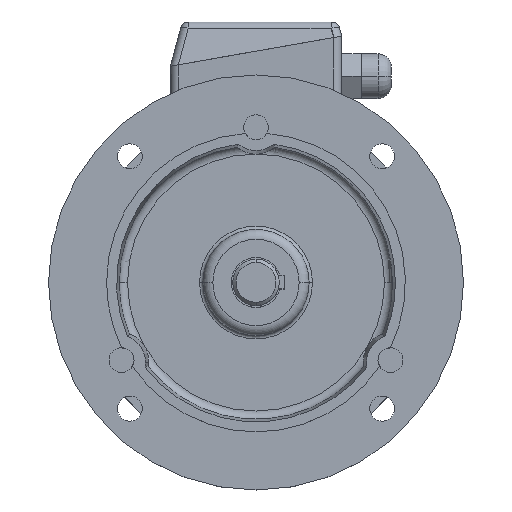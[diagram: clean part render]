
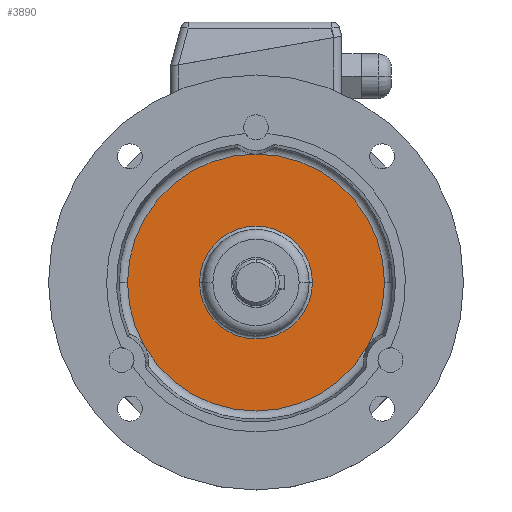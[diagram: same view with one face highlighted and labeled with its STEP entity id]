
A CAD part, top view. The second image highlights one B-rep face of the part: STEP entity #3890.
In plain terms, the highlighted planar face has unit normal (0, 0, 1).
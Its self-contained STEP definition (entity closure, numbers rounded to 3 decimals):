
#416 = ORIENTED_EDGE ( 'NONE', *, *, #21423, .F. ) ;
#1049 = ORIENTED_EDGE ( 'NONE', *, *, #17725, .F. ) ;
#17725 = EDGE_CURVE ( 'NONE', #20909, #22513, #22921, .T. ) ;
#1690 = EDGE_LOOP ( 'NONE', ( #1049, #416 ) ) ;
#1982 = CARTESIAN_POINT ( 'NONE',  ( -77.406, 0., 26. ) ) ;
#1983 = ORIENTED_EDGE ( 'NONE', *, *, #6117, .T. ) ;
#2630 = EDGE_CURVE ( 'NONE', #5187, #5637, #8972, .T. ) ;
#2751 = CIRCLE ( 'NONE', #2752, 77.406 ) ;
#2752 = AXIS2_PLACEMENT_3D ( 'NONE', #2753, #2754, #2755 ) ;
#2753 = CARTESIAN_POINT ( 'NONE',  ( 0., 0., 26. ) ) ;
#2754 = DIRECTION ( 'NONE',  ( 0., 0., -1. ) ) ;
#2755 = DIRECTION ( 'NONE',  ( -1., 0., 0. ) ) ;
#3088 = ORIENTED_EDGE ( 'NONE', *, *, #2630, .T. ) ;
#3633 = CARTESIAN_POINT ( 'NONE',  ( 77.406, 0., 26. ) ) ;
#3671 = EDGE_LOOP ( 'NONE', ( #3088, #1983 ) ) ;
#3890 = ADVANCED_FACE ( 'NONE', ( #10290, #10291 ), #10292, .T. ) ;
#20909 = VERTEX_POINT ( 'NONE', #1982 ) ;
#21423 = EDGE_CURVE ( 'NONE', #22513, #20909, #2751, .T. ) ;
#5187 = VERTEX_POINT ( 'NONE', #11236 ) ;
#5637 = VERTEX_POINT ( 'NONE', #11443 ) ;
#6117 = EDGE_CURVE ( 'NONE', #5637, #5187, #11654, .T. ) ;
#22513 = VERTEX_POINT ( 'NONE', #3633 ) ;
#22921 = CIRCLE ( 'NONE', #22922, 77.406 ) ;
#22922 = AXIS2_PLACEMENT_3D ( 'NONE', #22923, #22924, #22925 ) ;
#22923 = CARTESIAN_POINT ( 'NONE',  ( 0., 0., 26. ) ) ;
#22924 = DIRECTION ( 'NONE',  ( 0., 0., -1. ) ) ;
#22925 = DIRECTION ( 'NONE',  ( -1., 0., 0. ) ) ;
#8972 = CIRCLE ( 'NONE', #8973, 34. ) ;
#8973 = AXIS2_PLACEMENT_3D ( 'NONE', #8974, #8975, #8976 ) ;
#8974 = CARTESIAN_POINT ( 'NONE',  ( 0., 0., 26. ) ) ;
#8975 = DIRECTION ( 'NONE',  ( 0., 0., -1. ) ) ;
#8976 = DIRECTION ( 'NONE',  ( -1., 0., 0. ) ) ;
#10290 = FACE_BOUND ( 'NONE', #3671, .T. ) ;
#10291 = FACE_OUTER_BOUND ( 'NONE', #1690, .T. ) ;
#10292 = PLANE ( 'NONE',  #10293 ) ;
#10293 = AXIS2_PLACEMENT_3D ( 'NONE', #10294, #10295, #10296 ) ;
#10294 = CARTESIAN_POINT ( 'NONE',  ( -77.406, 0., 26. ) ) ;
#10295 = DIRECTION ( 'NONE',  ( 0., 0., 1. ) ) ;
#10296 = DIRECTION ( 'NONE',  ( 1., 0., 0. ) ) ;
#11236 = CARTESIAN_POINT ( 'NONE',  ( -34., 0., 26. ) ) ;
#11443 = CARTESIAN_POINT ( 'NONE',  ( 34., 0., 26. ) ) ;
#11654 = CIRCLE ( 'NONE', #11655, 34. ) ;
#11655 = AXIS2_PLACEMENT_3D ( 'NONE', #11656, #11657, #11658 ) ;
#11656 = CARTESIAN_POINT ( 'NONE',  ( 0., 0., 26. ) ) ;
#11657 = DIRECTION ( 'NONE',  ( 0., 0., -1. ) ) ;
#11658 = DIRECTION ( 'NONE',  ( -1., 0., 0. ) ) ;
